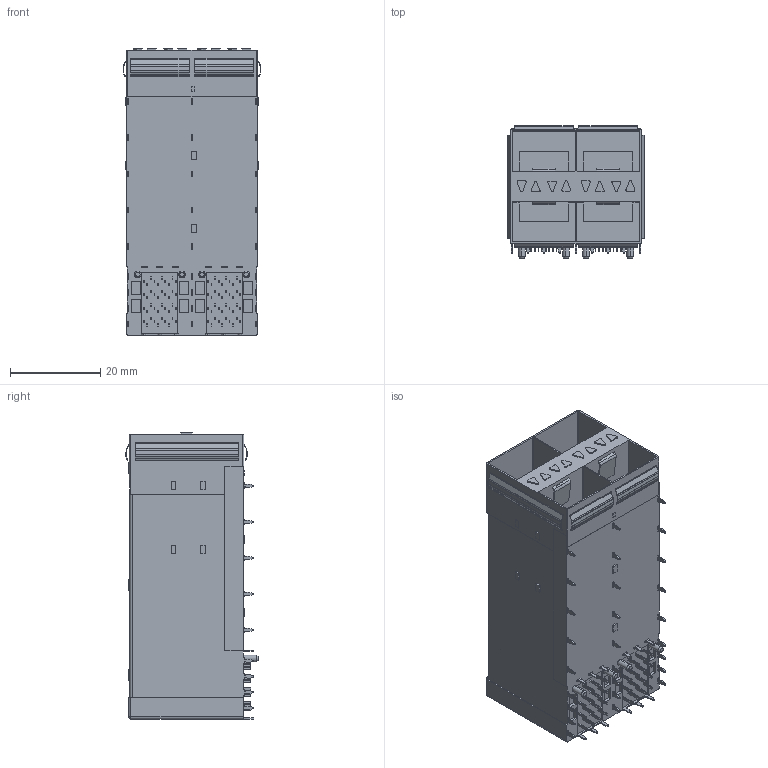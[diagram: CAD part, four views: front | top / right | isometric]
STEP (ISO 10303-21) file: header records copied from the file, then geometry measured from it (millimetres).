
FILE_DESCRIPTION (( 'STEP AP203' ), '1' );
FILE_NAME ('LP22CC01101.STEP', '2025-03-13T00:17:09', ( '' ), ( '' ), 'SwSTEP 2.0', 'SolidWorks 2023', '' );
FILE_SCHEMA (( 'CONFIG_CONTROL_DESIGN' ));
Length unit declared in the file: millimetre
Products named in the file (1): LP22CC01101
Bounding box: 30.56 x 29.38 x 63.5 mm (x, y, z)
Volume: 23696.9 mm3; surface area: 19088.4 mm2
Topology: 1 solids, 1 shells, 1672 faces, 4703 edges, 3182 vertices
Faces by surface type: plane 1128, cylinder 534, cone 8, sphere 2
Entity records: 54130 total; most frequent: CARTESIAN_POINT 9556, ORIENTED_EDGE 9402, DIRECTION 9127, EDGE_CURVE 4701, VECTOR 3621, LINE 3621, VERTEX_POINT 3182, AXIS2_PLACEMENT_3D 2753
